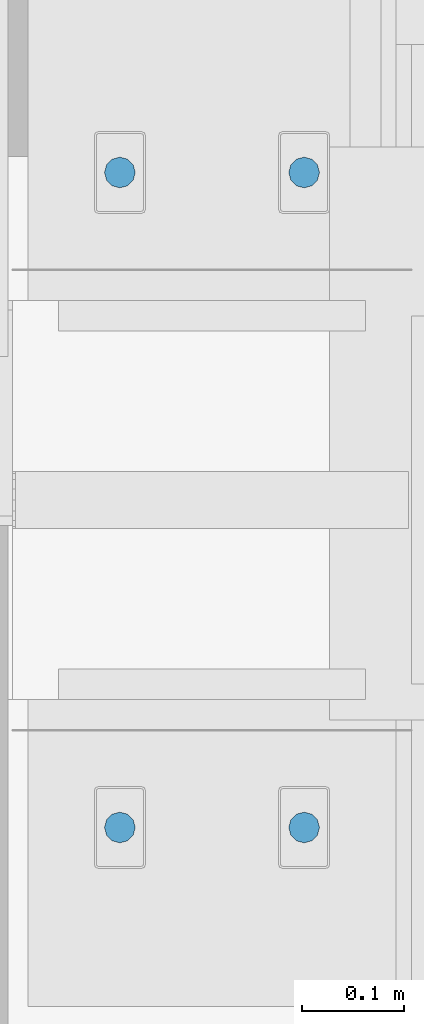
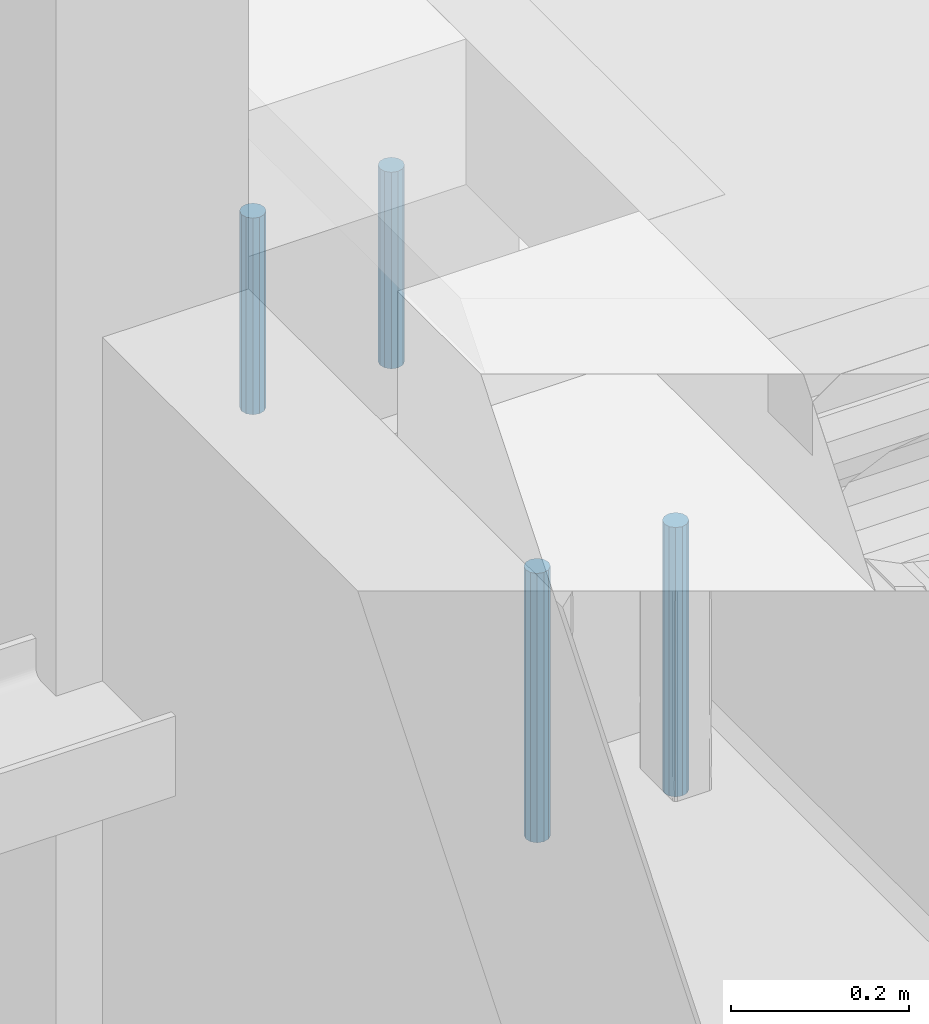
# One storey, part 202 of 230: 4 beams.
"""IFC4X3_ADD2 building model written with IfcOpenShell, lengths in millimetres."""

from ifc_helpers import new_model, si_unit, direction, origin_with_axes, place, context, subcontext, project, spatial, polygons, element, save


model = new_model("IFC4X3_ADD2")

# Units and contexts
model_context = context("Model", 3, precision=1e-05, world=origin_with_axes(), true_north=direction((0.0, 1.0)))
body_context = subcontext(model_context, "Body", "Model", "MODEL_VIEW")
ifc_project = project(units=[si_unit("LENGTHUNIT", "METRE", prefix="MILLI"), si_unit("AREAUNIT", "SQUARE_METRE"), si_unit("VOLUMEUNIT", "CUBIC_METRE"), si_unit("PLANEANGLEUNIT", "RADIAN"), si_unit("TIMEUNIT", "SECOND"), si_unit("MASSUNIT", "GRAM")], contexts=[model_context])

# Site, building, storey
site_placement = place(None, origin_with_axes())
site = spatial("IfcSite", under=ifc_project, at=site_placement, Name="Site", CompositionType="ELEMENT")
building_placement = place(site_placement, origin_with_axes())
building = spatial("IfcBuilding", under=site, at=building_placement, Name="IFC Building Story")
storey_placement = place(building_placement, origin_with_axes())
storey = spatial("IfcBuildingStorey", under=building, at=storey_placement, Name="ETAGE 00 (0)", Elevation=0.0)

# Beams
beam_1_placement = place(storey_placement, origin_with_axes())
element("IfcBeam", 1, at=beam_1_placement, inside=storey, Name="SD11", ObjectType="D30", context=body_context, shape_type="Tessellation", body=[
    polygons([(33296.1883474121, 18125.0, 3960.0), (33296.1883474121, 18125.0, 3690.0), (33298.19796635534, 18117.5, 3690.0), (33298.19796635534, 18117.5, 3960.0), (33303.68834741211, 18112.00961894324, 3690.0), (33303.68834741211, 18112.00961894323, 3960.0), (33311.1883474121, 18110.0, 3690.0), (33311.1883474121, 18110.0, 3960.0), (33318.68834741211, 18112.00961894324, 3690.0), (33318.68834741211, 18112.00961894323, 3960.0), (33324.17872846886, 18117.5, 3690.0), (33324.17872846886, 18117.5, 3960.0), (33326.1883474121, 18125.0, 3690.0), (33326.1883474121, 18125.0, 3960.0), (33324.17872846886, 18132.5, 3690.0), (33324.17872846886, 18132.5, 3960.0), (33318.68834741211, 18137.99038105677, 3690.0), (33318.68834741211, 18137.99038105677, 3960.0), (33311.1883474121, 18140.0, 3690.0), (33311.1883474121, 18140.0, 3960.0), (33303.68834741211, 18137.99038105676, 3690.0), (33303.68834741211, 18137.99038105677, 3960.0), (33298.19796635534, 18132.5, 3690.0), (33298.19796635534, 18132.5, 3960.0)], [[[1, 2, 3, 4]], [[4, 3, 5, 6]], [[6, 5, 7, 8]], [[8, 7, 9, 10]], [[10, 9, 11, 12]], [[12, 11, 13, 14]], [[14, 13, 15, 16]], [[16, 15, 17, 18]], [[18, 17, 19, 20]], [[20, 19, 21, 22]], [[22, 21, 23, 24]], [[24, 23, 2, 1]], [[4, 6, 8]], [[4, 8, 10]], [[4, 10, 12]], [[4, 12, 14]], [[4, 14, 16]], [[4, 16, 18]], [[4, 18, 20]], [[4, 20, 22]], [[4, 22, 24]], [[4, 24, 1]], [[2, 23, 21]], [[2, 21, 19]], [[2, 19, 17]], [[2, 17, 15]], [[2, 15, 13]], [[2, 13, 11]], [[2, 11, 9]], [[2, 9, 7]], [[2, 7, 5]], [[2, 5, 3]]]),
])
beam_2_placement = place(storey_placement, origin_with_axes())
element("IfcBeam", 2, at=beam_2_placement, inside=storey, Name="SD11", ObjectType="D30", context=body_context, shape_type="Tessellation", body=[
    polygons([(33476.188, 18125.0, 3960.0), (33476.188, 18125.0, 3690.0), (33478.19761894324, 18117.50000000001, 3690.0), (33478.19761894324, 18117.5, 3960.0), (33483.68800000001, 18112.00961894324, 3690.0), (33483.68800000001, 18112.00961894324, 3960.0), (33491.18799999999, 18110.0, 3690.0), (33491.18799999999, 18110.0, 3960.0), (33498.688, 18112.00961894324, 3690.0), (33498.688, 18112.00961894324, 3960.0), (33504.17838105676, 18117.5, 3690.0), (33504.17838105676, 18117.5, 3960.0), (33506.188, 18125.0, 3690.0), (33506.188, 18125.0, 3960.0), (33504.17838105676, 18132.5, 3690.0), (33504.17838105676, 18132.5, 3960.0), (33498.68800000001, 18137.99038105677, 3690.0), (33498.688, 18137.99038105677, 3960.0), (33491.18799999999, 18140.0, 3690.0), (33491.18799999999, 18140.0, 3960.0), (33483.68800000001, 18137.99038105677, 3690.0), (33483.68800000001, 18137.99038105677, 3960.0), (33478.19761894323, 18132.5, 3690.0), (33478.19761894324, 18132.5, 3960.0)], [[[1, 2, 3, 4]], [[4, 3, 5, 6]], [[6, 5, 7, 8]], [[8, 7, 9, 10]], [[10, 9, 11, 12]], [[12, 11, 13, 14]], [[14, 13, 15, 16]], [[16, 15, 17, 18]], [[18, 17, 19, 20]], [[20, 19, 21, 22]], [[22, 21, 23, 24]], [[24, 23, 2, 1]], [[4, 6, 8]], [[4, 8, 10]], [[4, 10, 12]], [[4, 12, 14]], [[4, 14, 16]], [[4, 16, 18]], [[4, 18, 20]], [[4, 20, 22]], [[4, 22, 24]], [[4, 24, 1]], [[2, 23, 21]], [[2, 21, 19]], [[2, 19, 17]], [[2, 17, 15]], [[2, 15, 13]], [[2, 13, 11]], [[2, 11, 9]], [[2, 9, 7]], [[2, 7, 5]], [[2, 5, 3]]]),
])
beam_3_placement = place(storey_placement, origin_with_axes())
element("IfcBeam", 3, at=beam_3_placement, inside=storey, Name="SD11", ObjectType="D30", context=body_context, shape_type="Tessellation", body=[
    polygons([(33296.188, 17485.0, 3860.0), (33296.188, 17485.0, 3490.0), (33298.19761894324, 17477.5, 3490.0), (33298.19761894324, 17477.5, 3860.0), (33303.68800000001, 17472.00961894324, 3490.0), (33303.68800000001, 17472.00961894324, 3860.0), (33311.18800000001, 17470.0, 3490.0), (33311.18800000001, 17470.0, 3860.0), (33318.688, 17472.00961894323, 3490.0), (33318.688, 17472.00961894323, 3860.0), (33324.17838105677, 17477.5, 3490.0), (33324.17838105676, 17477.5, 3860.0), (33326.188, 17485.0, 3490.0), (33326.188, 17485.0, 3860.0), (33324.17838105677, 17492.5, 3490.0), (33324.17838105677, 17492.5, 3860.0), (33318.68800000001, 17497.99038105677, 3490.0), (33318.68800000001, 17497.99038105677, 3860.0), (33311.18800000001, 17500.0, 3490.0), (33311.18800000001, 17500.0, 3860.0), (33303.68800000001, 17497.99038105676, 3490.0), (33303.68800000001, 17497.99038105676, 3860.0), (33298.19761894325, 17492.5, 3490.0), (33298.19761894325, 17492.5, 3860.0)], [[[1, 2, 3, 4]], [[4, 3, 5, 6]], [[6, 5, 7, 8]], [[8, 7, 9, 10]], [[10, 9, 11, 12]], [[12, 11, 13, 14]], [[14, 13, 15, 16]], [[16, 15, 17, 18]], [[18, 17, 19, 20]], [[20, 19, 21, 22]], [[22, 21, 23, 24]], [[24, 23, 2, 1]], [[4, 6, 8]], [[4, 8, 10]], [[4, 10, 12]], [[4, 12, 14]], [[4, 14, 16]], [[4, 16, 18]], [[4, 18, 20]], [[4, 20, 22]], [[4, 22, 24]], [[4, 24, 1]], [[2, 23, 21]], [[2, 21, 19]], [[2, 19, 17]], [[2, 17, 15]], [[2, 15, 13]], [[2, 13, 11]], [[2, 11, 9]], [[2, 9, 7]], [[2, 7, 5]], [[2, 5, 3]]]),
])
beam_4_placement = place(storey_placement, origin_with_axes())
element("IfcBeam", 4, at=beam_4_placement, inside=storey, Name="SD11", ObjectType="D30", context=body_context, shape_type="Tessellation", body=[
    polygons([(33476.188, 17485.0, 3860.0), (33476.188, 17485.0, 3490.0), (33478.19761894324, 17477.50000000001, 3490.0), (33478.19761894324, 17477.5, 3860.0), (33483.68800000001, 17472.00961894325, 3490.0), (33483.68800000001, 17472.00961894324, 3860.0), (33491.18799999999, 17470.0, 3490.0), (33491.18799999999, 17470.0, 3860.0), (33498.688, 17472.00961894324, 3490.0), (33498.688, 17472.00961894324, 3860.0), (33504.17838105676, 17477.5, 3490.0), (33504.17838105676, 17477.5, 3860.0), (33506.188, 17485.0, 3490.0), (33506.188, 17485.0, 3860.0), (33504.17838105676, 17492.50000000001, 3490.0), (33504.17838105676, 17492.50000000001, 3860.0), (33498.688, 17497.99038105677, 3490.0), (33498.688, 17497.99038105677, 3860.0), (33491.18799999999, 17500.0, 3490.0), (33491.18799999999, 17500.0, 3860.0), (33483.68800000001, 17497.99038105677, 3490.0), (33483.68800000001, 17497.99038105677, 3860.0), (33478.19761894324, 17492.50000000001, 3490.0), (33478.19761894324, 17492.50000000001, 3860.0)], [[[1, 2, 3, 4]], [[4, 3, 5, 6]], [[6, 5, 7, 8]], [[8, 7, 9, 10]], [[10, 9, 11, 12]], [[12, 11, 13, 14]], [[14, 13, 15, 16]], [[16, 15, 17, 18]], [[18, 17, 19, 20]], [[20, 19, 21, 22]], [[22, 21, 23, 24]], [[24, 23, 2, 1]], [[4, 6, 8]], [[4, 8, 10]], [[4, 10, 12]], [[4, 12, 14]], [[4, 14, 16]], [[4, 16, 18]], [[4, 18, 20]], [[4, 20, 22]], [[4, 22, 24]], [[4, 24, 1]], [[2, 23, 21]], [[2, 21, 19]], [[2, 19, 17]], [[2, 17, 15]], [[2, 15, 13]], [[2, 13, 11]], [[2, 11, 9]], [[2, 9, 7]], [[2, 7, 5]], [[2, 5, 3]]]),
])

save(model, "model.ifc")
